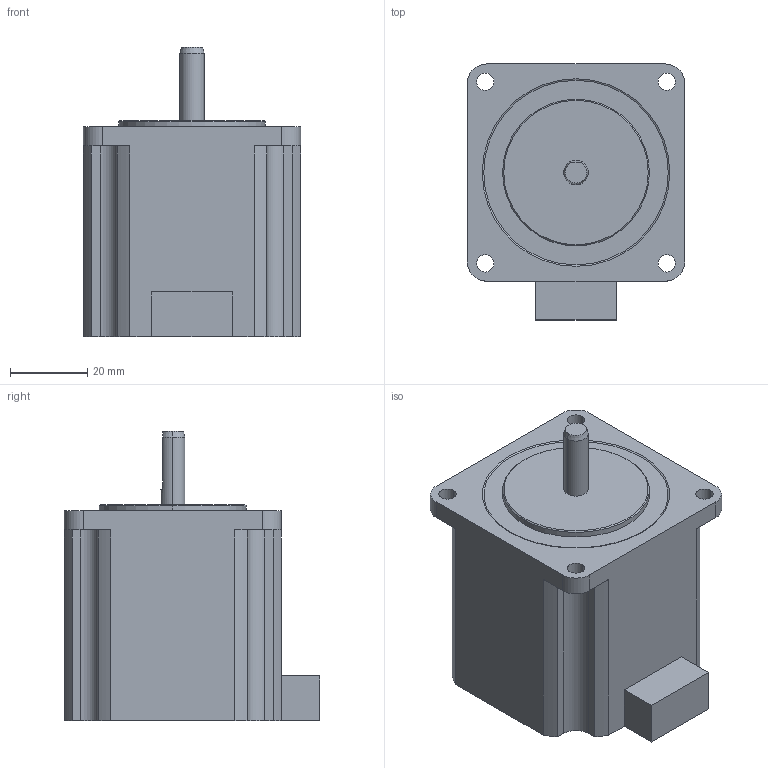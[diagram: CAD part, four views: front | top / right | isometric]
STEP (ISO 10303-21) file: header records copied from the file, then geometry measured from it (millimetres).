
FILE_DESCRIPTION (( 'STEP AP203' ), '1' );
FILE_NAME ('PMSA-U56D3_3D.STEP', '2016-11-15T04:53:56', ( 'SKJ00869' ), ( '' ), 'SwSTEP 2.0', 'SolidWorks 2014', '' );
FILE_SCHEMA (( 'CONFIG_CONTROL_DESIGN' ));
Length unit declared in the file: millimetre
Products named in the file (1): PMSA-U56D3_3D
Bounding box: 56.4 x 66.4 x 75.1 mm (x, y, z)
Volume: 161718.6 mm3; surface area: 18986.5 mm2
Topology: 1 solids, 1 shells, 62 faces, 167 edges, 110 vertices
Faces by surface type: cylinder 28, plane 27, cone 7
Entity records: 2065 total; most frequent: DIRECTION 358, CARTESIAN_POINT 350, ORIENTED_EDGE 334, EDGE_CURVE 167, AXIS2_PLACEMENT_3D 130, VERTEX_POINT 110, LINE 98, VECTOR 98
